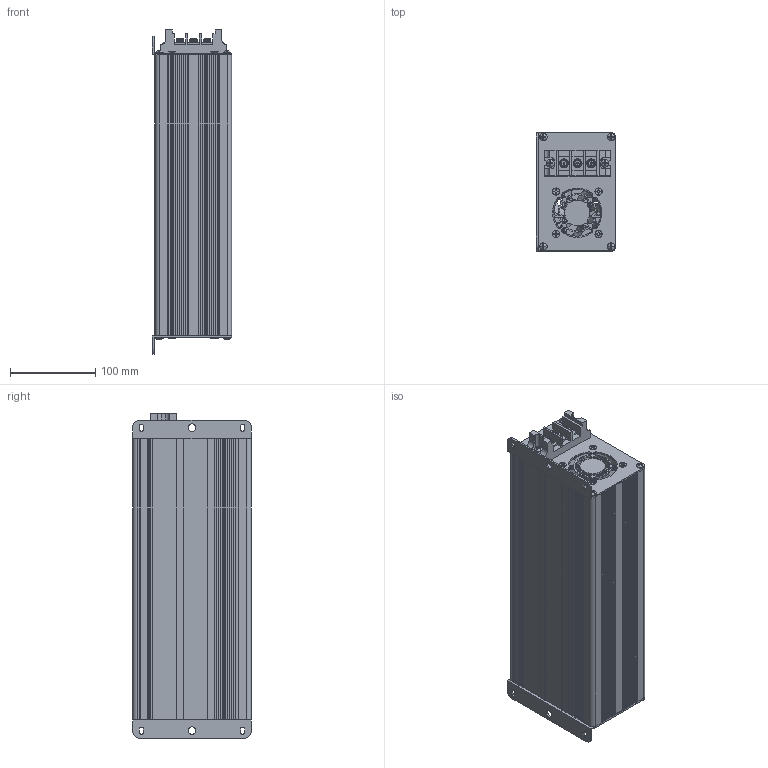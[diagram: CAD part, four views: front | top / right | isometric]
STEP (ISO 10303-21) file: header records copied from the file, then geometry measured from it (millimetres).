
FILE_DESCRIPTION(/* description */ (''),/* implementation_level */ '2;1');
FILE_NAME(/* name */ 'H:\04_배터리_전기종\고부하용 배터리 케이스_3D\CH 고객도면\CH330.stp',/* time_stamp */ '2024-06-05T16:30:23+09:00',/* author */ ('jjang'),/* organization */ (''),/* preprocessor_version */ 'ST-DEVELOPER v18.1',/* originating_system */ 'Autodesk Inventor 2021',/* authorisation */ '');
FILE_SCHEMA (('AUTOMOTIVE_DESIGN { 1 0 10303 214 3 1 1 }'));
Products named in the file (1): CH330_Shrinkwrap_1
Bounding box: 93 x 139 x 381.5 mm (x, y, z)
Volume: 562762.5 mm3; surface area: 440921 mm2
Topology: 1 solids, 1 shells, 1686 faces, 4664 edges, 3012 vertices
Faces by surface type: plane 835, cylinder 574, bspline 174, torus 71, cone 18, sphere 14
Full cylindrical faces by diameter (mm): 0.9 x4, 3.8 x8, 4.3 x8, 4.5 x8, 4.8 x8, 5 x10, 5.5 x6, 6 x3, 8.4 x8, 8.584 x3, 8.6 x3, 8.8 x8, 9 x2, 9.2 x2, 10 x2, 25.4 x2, 55.4 x2
Entity records: 67251 total; most frequent: CARTESIAN_POINT 23531, ORIENTED_EDGE 9308, DIRECTION 8793, EDGE_CURVE 4654, AXIS2_PLACEMENT_3D 3192, VERTEX_POINT 3012, LINE 2409, VECTOR 2409
